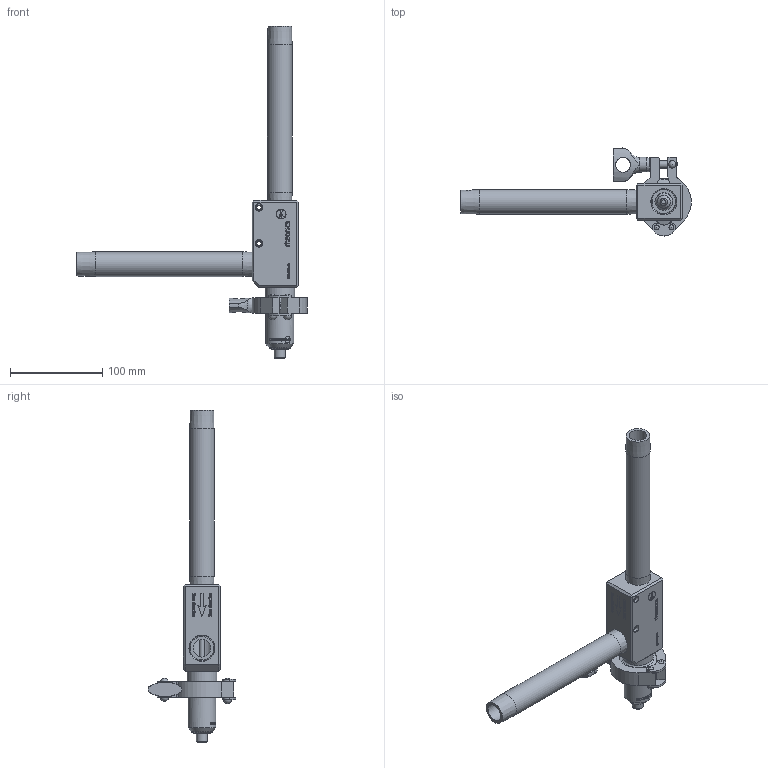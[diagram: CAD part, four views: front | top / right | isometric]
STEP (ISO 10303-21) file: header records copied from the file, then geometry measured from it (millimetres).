
FILE_DESCRIPTION(/* description */ ('Unknown'),/* implementation_level */ '2;1');
FILE_NAME(/* name */ 'IFC-15T-34N-SRV_SRV-HD',/* time_stamp */ '2025-03-07T11:25:06-05:00',/* author */ ('Unknown'),/* organization */ ('Unknown'),/* preprocessor_version */ 'ST-DEVELOPER v16.7',/* originating_system */ 'Solid Edge',/* authorisation */ 'Unknown');
FILE_SCHEMA (('AUTOMOTIVE_DESIGN {1 0 10303 214 3 1 1}'));
Length unit declared in the file: millimetre
Products named in the file (6): IFC-15T-SRV-HD; IFC-15T-34N-SRV; tube_A; TC-15T-Ring; SRV-HD-X3-15T; TC-15T-Seal
Assembly tree (6 placements, depth 2):
  IFC-15T-SRV-HD
    IFC-15T-34N-SRV
    tube_A  x2
    TC-15T-Ring
    SRV-HD-X3-15T
    TC-15T-Seal
Bounding box: 249.45 x 95.21 x 359.21 mm (x, y, z)
Volume: 326262.2 mm3; surface area: 123030 mm2
Topology: 6 solids, 6 shells, 443 faces, 1626 edges, 1314 vertices
Faces by surface type: plane 222, cylinder 83, bspline 63, cone 35, torus 25, sphere 15
Full cylindrical faces by diameter (mm): 0.8 x8, 4.5 x2, 5.019 x1, 7.5 x4, 7.938 x1, 8 x2, 12 x1, 13.9 x1, 15.873 x1, 16 x1, 19.05 x2, 24.239 x2, 26 x1, 26.67 x2, 30 x1, 32 x1, 38.2 x1, 50.5 x3
Entity records: 23018 total; most frequent: CARTESIAN_POINT 8132, ORIENTED_EDGE 2898, DIRECTION 1800, EDGE_CURVE 1449, VERTEX_POINT 1254, EDGE_LOOP 691, FACE_BOUND 691, B_SPLINE_CURVE_WITH_KNOTS 643
